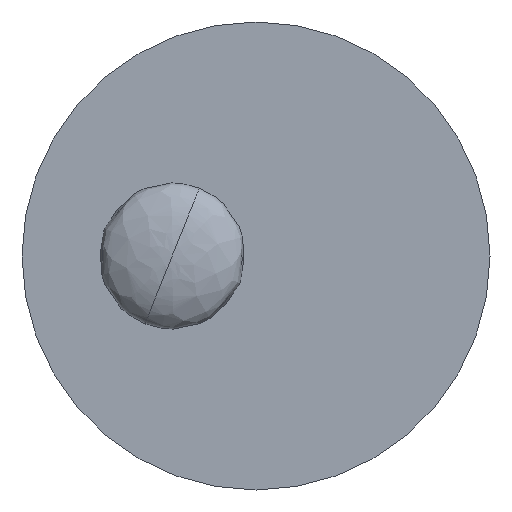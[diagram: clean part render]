
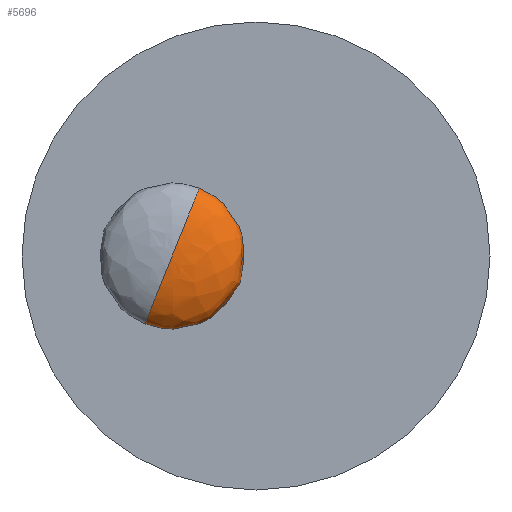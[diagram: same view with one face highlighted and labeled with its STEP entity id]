
A CAD part, front view. The second image highlights one B-rep face of the part: STEP entity #5696.
In plain terms, the highlighted free-form (B-spline) face has degree [3, 3] with [4, 4] control points.
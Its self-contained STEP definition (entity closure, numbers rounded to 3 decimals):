
#573 = EDGE_CURVE ( 'NONE', #2577, #8466, #2074, .T. ) ;
#1135 = CARTESIAN_POINT ( 'NONE',  ( 102.247, -24.385, 0. ) ) ;
#1218 = CARTESIAN_POINT ( 'NONE',  ( 0., -50., 0. ) ) ;
#1609 = AXIS2_PLACEMENT_3D ( 'NONE', #8953, #8871, #6386 ) ;
#2074 =( BOUNDED_CURVE ( )  B_SPLINE_CURVE ( 3, ( #10273, #15511, #10116, #3591 ),
 .UNSPECIFIED., .F., .F. ) 
 B_SPLINE_CURVE_WITH_KNOTS ( ( 4, 4 ),
 ( 5.645, 7.854 ),
 .UNSPECIFIED. ) 
 CURVE ( )  GEOMETRIC_REPRESENTATION_ITEM ( )  RATIONAL_B_SPLINE_CURVE ( ( 1., 0.633, 0.633, 1. ) ) 
 REPRESENTATION_ITEM ( '' )  );
#2167 = EDGE_CURVE ( 'NONE', #4006, #8466, #2180, .T. ) ;
#2180 =( BOUNDED_CURVE ( )  B_SPLINE_CURVE ( 3, ( #4881, #8827, #8122, #9581 ),
 .UNSPECIFIED., .F., .F. ) 
 B_SPLINE_CURVE_WITH_KNOTS ( ( 4, 4 ),
 ( 5.645, 7.854 ),
 .UNSPECIFIED. ) 
 CURVE ( )  GEOMETRIC_REPRESENTATION_ITEM ( )  RATIONAL_B_SPLINE_CURVE ( ( 1., 0.633, 0.633, 1. ) ) 
 REPRESENTATION_ITEM ( '' )  );
#2423 = CARTESIAN_POINT ( 'NONE',  ( -70.525, -50., 141.05 ) ) ;
#2577 = VERTEX_POINT ( 'NONE', #11894 ) ;
#2589 = CARTESIAN_POINT ( 'NONE',  ( -60.259, -1.342, 0. ) ) ;
#3380 =( BOUNDED_SURFACE ( )  B_SPLINE_SURFACE ( 3, 3, ( 
 ( #2589, #3965, #12982, #14189 ),
 ( #10409, #5346, #14446, #1135 ),
 ( #16845, #2423, #5087, #9113 ),
 ( #1218, #15812, #7744, #6630 ) ),
 .UNSPECIFIED., .F., .F., .F. ) 
 B_SPLINE_SURFACE_WITH_KNOTS ( ( 4, 4 ),
 ( 4, 4 ),
 ( 0., 1. ),
 ( 0., 1. ),
 .UNSPECIFIED. ) 
 GEOMETRIC_REPRESENTATION_ITEM ( )  RATIONAL_B_SPLINE_SURFACE ( (
 ( 1., 0.333, 0.333, 1.),
 ( 0.633, 0.211, 0.211, 0.633),
 ( 0.633, 0.211, 0.211, 0.633),
 ( 1., 0.333, 0.333, 1.) ) ) 
 REPRESENTATION_ITEM ( '' )  SURFACE ( )  );
#3591 = CARTESIAN_POINT ( 'NONE',  ( 0., -50., 0. ) ) ;
#3965 = CARTESIAN_POINT ( 'NONE',  ( -60.259, -1.342, 120.519 ) ) ;
#4006 = VERTEX_POINT ( 'NONE', #5013 ) ;
#4881 = CARTESIAN_POINT ( 'NONE',  ( 60.259, -1.342, 0. ) ) ;
#5013 = CARTESIAN_POINT ( 'NONE',  ( 60.259, -1.342, 0. ) ) ;
#5087 = CARTESIAN_POINT ( 'NONE',  ( 70.525, -50., 141.05 ) ) ;
#5346 = CARTESIAN_POINT ( 'NONE',  ( -102.247, -24.385, 204.494 ) ) ;
#5696 = ADVANCED_FACE ( 'NONE', ( #15723 ), #3380, .T. ) ;
#6382 = ORIENTED_EDGE ( 'NONE', *, *, #573, .T. ) ;
#6386 = DIRECTION ( 'NONE',  ( -1., 0., 0. ) ) ;
#6630 = CARTESIAN_POINT ( 'NONE',  ( 0., -50., 0. ) ) ;
#7744 = CARTESIAN_POINT ( 'NONE',  ( 0., -50., 0. ) ) ;
#8122 = CARTESIAN_POINT ( 'NONE',  ( 70.525, -50., 0. ) ) ;
#8466 = VERTEX_POINT ( 'NONE', #9242 ) ;
#8827 = CARTESIAN_POINT ( 'NONE',  ( 102.247, -24.385, 0. ) ) ;
#8871 = DIRECTION ( 'NONE',  ( 0., 1., 0. ) ) ;
#8953 = CARTESIAN_POINT ( 'NONE',  ( 0., -1.342, 0. ) ) ;
#9113 = CARTESIAN_POINT ( 'NONE',  ( 70.525, -50., 0. ) ) ;
#9163 = ORIENTED_EDGE ( 'NONE', *, *, #2167, .F. ) ;
#9242 = CARTESIAN_POINT ( 'NONE',  ( 0., -50., 0. ) ) ;
#9581 = CARTESIAN_POINT ( 'NONE',  ( 0., -50., 0. ) ) ;
#10116 = CARTESIAN_POINT ( 'NONE',  ( -70.525, -50., 0. ) ) ;
#10273 = CARTESIAN_POINT ( 'NONE',  ( -60.259, -1.342, 0. ) ) ;
#10409 = CARTESIAN_POINT ( 'NONE',  ( -102.247, -24.385, 0. ) ) ;
#10527 = EDGE_CURVE ( 'NONE', #2577, #4006, #15044, .T. ) ;
#11894 = CARTESIAN_POINT ( 'NONE',  ( -60.259, -1.342, 0. ) ) ;
#12010 = EDGE_LOOP ( 'NONE', ( #9163, #13657, #6382 ) ) ;
#12982 = CARTESIAN_POINT ( 'NONE',  ( 60.259, -1.342, 120.519 ) ) ;
#13657 = ORIENTED_EDGE ( 'NONE', *, *, #10527, .F. ) ;
#14189 = CARTESIAN_POINT ( 'NONE',  ( 60.259, -1.342, 0. ) ) ;
#14446 = CARTESIAN_POINT ( 'NONE',  ( 102.247, -24.385, 204.494 ) ) ;
#15044 = CIRCLE ( 'NONE', #1609, 60.259 ) ;
#15511 = CARTESIAN_POINT ( 'NONE',  ( -102.247, -24.385, 0. ) ) ;
#15723 = FACE_OUTER_BOUND ( 'NONE', #12010, .T. ) ;
#15812 = CARTESIAN_POINT ( 'NONE',  ( 0., -50., 0. ) ) ;
#16845 = CARTESIAN_POINT ( 'NONE',  ( -70.525, -50., 0. ) ) ;
